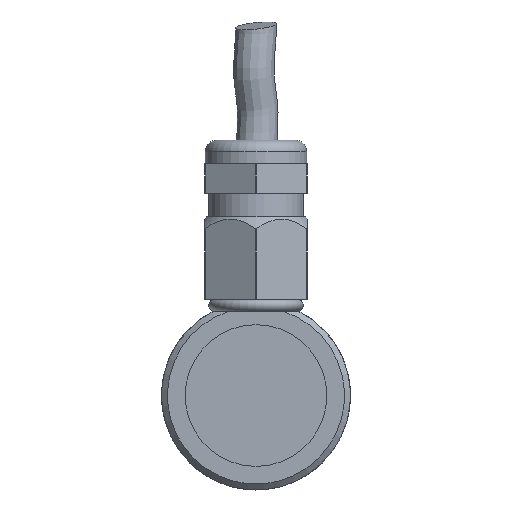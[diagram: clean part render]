
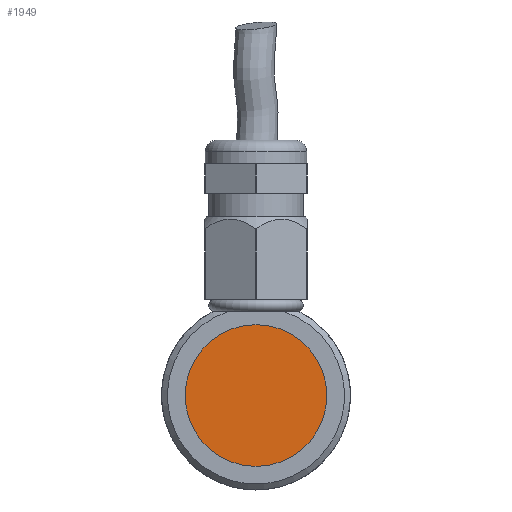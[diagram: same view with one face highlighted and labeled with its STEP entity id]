
A CAD part, left-side view. The second image highlights one B-rep face of the part: STEP entity #1949.
In plain terms, the highlighted planar face has unit normal (-1, 0, 0).
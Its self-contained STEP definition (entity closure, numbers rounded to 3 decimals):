
#869=PLANE('',#2046);
#918=VERTEX_POINT('',#2649);
#1049=CIRCLE('',#2044,6.);
#1122=EDGE_CURVE('',#918,#918,#1049,.T.);
#1349=ORIENTED_EDGE('',*,*,#1122,.T.);
#1733=EDGE_LOOP('',(#1349));
#1843=FACE_BOUND('',#1733,.T.);
#1949=ADVANCED_FACE('',(#1843),#869,.T.);
#2044=AXIS2_PLACEMENT_3D('',#2648,#2188,#2189);
#2046=AXIS2_PLACEMENT_3D('',#2652,#2192,$);
#2188=DIRECTION('',(-1.,0.,0.));
#2189=DIRECTION('',(0.,0.,6.));
#2192=DIRECTION('',(-1.,0.,0.));
#2648=CARTESIAN_POINT('',(1.,0.,0.));
#2649=CARTESIAN_POINT('',(1.,0.,6.));
#2652=CARTESIAN_POINT('',(1.,0.,0.));
